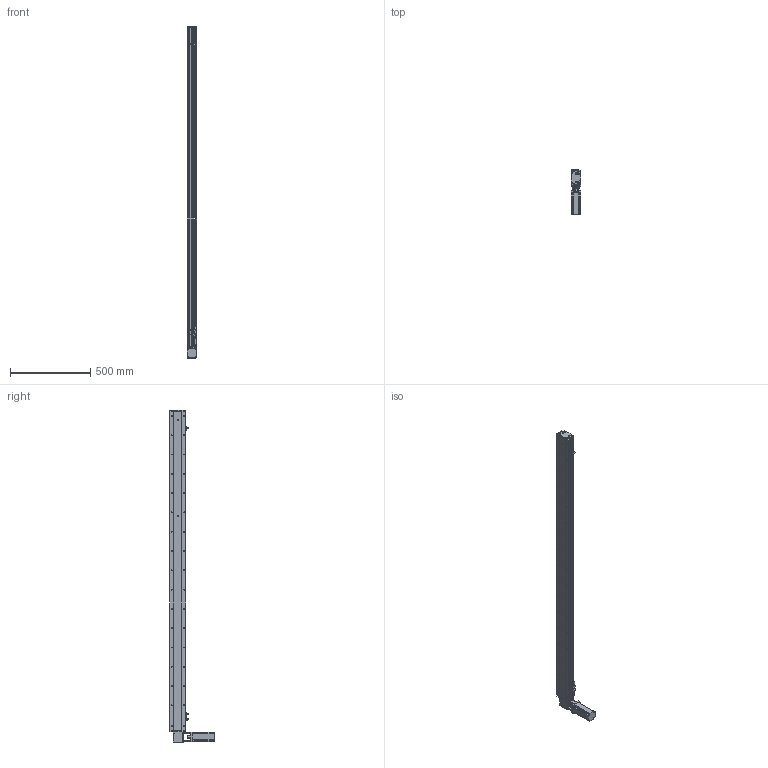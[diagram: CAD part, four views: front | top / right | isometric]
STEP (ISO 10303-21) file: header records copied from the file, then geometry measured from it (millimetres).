
FILE_DESCRIPTION (( 'STEP AP214' ), '1' );
FILE_NAME ('KSD100B-S1800-MLT-CM.STEP', '2019-10-26T06:06:02', ( '微软用户' ), ( '微软中国' ), 'SwSTEP 2.0', 'SolidWorks 2014', '' );
FILE_SCHEMA (( 'AUTOMOTIVE_DESIGN' ));
Length unit declared in the file: millimetre
Products named in the file (12): 台达ECMA－C20604AS伺服电机; 100宽马达安装板同步带右; 100宽同步带安装板半封闭; 100宽马达安装板同步带; 100遵傷啣肮祭湍; 100宽底板半封闭同步带1800行程; KSD100B-S1800-MLT-CM; 100宽安装板同步带带电机座400W,86; 100遵鎮湛假蚾啣1 ; 100宽防尘板1800行程-同步带; U倰嫖萇EEㄜSX672; 覜茼え100遵圉猾敕
Assembly tree (13 placements, depth 2):
  KSD100B-S1800-MLT-CM
    100宽底板半封闭同步带1800行程
    100遵傷啣肮祭湍
    100宽马达安装板同步带
    100宽同步带安装板半封闭
    100宽马达安装板同步带右
    台达ECMA－C20604AS伺服电机
    覜茼え100遵圉猾敕
    U倰嫖萇EEㄜSX672  x3
    100宽防尘板1800行程-同步带
    100遵鎮湛假蚾啣1 
    100宽安装板同步带带电机座400W,86
Bounding box: 61 x 275 x 2065 mm (x, y, z)
Volume: 4239244.8 mm3; surface area: 1435012.1 mm2
Topology: 14 solids, 14 shells, 1686 faces, 4783 edges, 3007 vertices
Faces by surface type: cylinder 892, plane 603, cone 191
Entity records: 61419 total; most frequent: CARTESIAN_POINT 13434, DIRECTION 8371, ORIENTED_EDGE 8090, EDGE_CURVE 4045, AXIS2_PLACEMENT_3D 3106, VERTEX_POINT 2631, LINE 2159, VECTOR 2159
